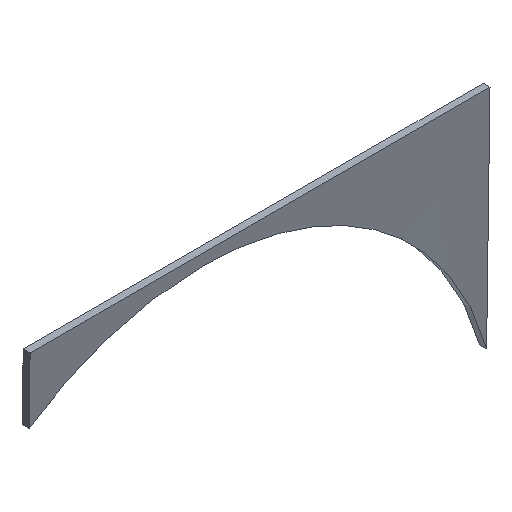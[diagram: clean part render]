
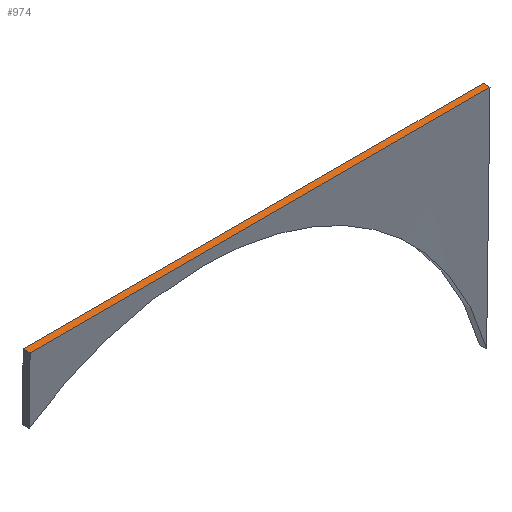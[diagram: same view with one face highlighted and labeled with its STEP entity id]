
A CAD part, isometric view. The second image highlights one B-rep face of the part: STEP entity #974.
In plain terms, the highlighted planar face has unit normal (0, 0, 1).
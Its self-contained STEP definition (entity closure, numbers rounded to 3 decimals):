
#59 = B_SPLINE_SURFACE_WITH_KNOTS('',8,3,(
    (#60,#61,#62,#63)
    ,(#64,#65,#66,#67)
    ,(#68,#69,#70,#71)
    ,(#72,#73,#74,#75)
    ,(#76,#77,#78,#79)
    ,(#80,#81,#82,#83)
    ,(#84,#85,#86,#87)
    ,(#88,#89,#90,#91)
    ,(#92,#93,#94,#95
    )),.UNSPECIFIED.,.F.,.F.,.F.,(9,9),(4,4),(4.,5.),(0.,1.),
  .PIECEWISE_BEZIER_KNOTS.);
#60 = CARTESIAN_POINT('',(329.,188.,100.));
#61 = CARTESIAN_POINT('',(333.035,186.258,
    217.091));
#62 = CARTESIAN_POINT('',(326.755,185.546,336.546
    ));
#63 = CARTESIAN_POINT('',(305.,176.,450.));
#64 = CARTESIAN_POINT('',(292.75,188.,100.));
#65 = CARTESIAN_POINT('',(293.885,186.258,
    217.091));
#66 = CARTESIAN_POINT('',(290.565,185.546,336.546
    ));
#67 = CARTESIAN_POINT('',(276.5,176.,450.));
#68 = CARTESIAN_POINT('',(256.5,188.,100.));
#69 = CARTESIAN_POINT('',(254.736,186.258,
    217.091));
#70 = CARTESIAN_POINT('',(254.375,185.546,336.546
    ));
#71 = CARTESIAN_POINT('',(248.,176.,450.));
#72 = CARTESIAN_POINT('',(220.25,188.,100.));
#73 = CARTESIAN_POINT('',(215.586,186.258,
    217.091));
#74 = CARTESIAN_POINT('',(218.185,185.546,336.546)
  );
#75 = CARTESIAN_POINT('',(219.5,176.,450.));
#76 = CARTESIAN_POINT('',(184.,188.,100.));
#77 = CARTESIAN_POINT('',(176.437,186.258,
    217.091));
#78 = CARTESIAN_POINT('',(181.994,185.546,336.546
    ));
#79 = CARTESIAN_POINT('',(191.,176.,450.));
#80 = CARTESIAN_POINT('',(147.75,188.,100.));
#81 = CARTESIAN_POINT('',(137.287,186.258,
    217.091));
#82 = CARTESIAN_POINT('',(145.804,185.546,336.546
    ));
#83 = CARTESIAN_POINT('',(162.5,176.,450.));
#84 = CARTESIAN_POINT('',(111.5,188.,100.));
#85 = CARTESIAN_POINT('',(98.138,186.258,
    217.091));
#86 = CARTESIAN_POINT('',(109.614,185.546,336.546
    ));
#87 = CARTESIAN_POINT('',(134.,176.,450.));
#88 = CARTESIAN_POINT('',(75.25,188.,100.));
#89 = CARTESIAN_POINT('',(58.988,186.258,
    217.091));
#90 = CARTESIAN_POINT('',(73.424,185.546,336.546
    ));
#91 = CARTESIAN_POINT('',(105.5,176.,450.));
#92 = CARTESIAN_POINT('',(39.,188.,100.));
#93 = CARTESIAN_POINT('',(19.839,186.258,
    217.091));
#94 = CARTESIAN_POINT('',(37.234,185.546,336.546)
  );
#95 = CARTESIAN_POINT('',(77.,176.,450.));
#170 = VERTEX_POINT('',#171);
#171 = CARTESIAN_POINT('',(110.,185.9,235.));
#215 = PLANE('',#216);
#216 = AXIS2_PLACEMENT_3D('',#217,#218,#219);
#217 = CARTESIAN_POINT('',(110.,-250.,0.));
#218 = DIRECTION('',(1.,0.,-0.));
#219 = DIRECTION('',(0.,0.,1.));
#242 = EDGE_CURVE('',#170,#243,#245,.T.);
#243 = VERTEX_POINT('',#244);
#244 = CARTESIAN_POINT('',(310.,185.9,235.));
#245 = SURFACE_CURVE('',#246,(#252,#261),.PCURVE_S1.);
#246 = B_SPLINE_CURVE_WITH_KNOTS('',4,(#247,#248,#249,#250,#251),
  .UNSPECIFIED.,.F.,.F.,(5,5),(0.,1.),.PIECEWISE_BEZIER_KNOTS.);
#247 = CARTESIAN_POINT('',(110.,185.9,235.));
#248 = CARTESIAN_POINT('',(162.5,185.9,235.));
#249 = CARTESIAN_POINT('',(215.,185.9,235.));
#250 = CARTESIAN_POINT('',(267.5,185.9,235.));
#251 = CARTESIAN_POINT('',(320.,185.9,235.));
#252 = PCURVE('',#59,#253);
#253 = DEFINITIONAL_REPRESENTATION('',(#254),#260);
#254 = B_SPLINE_CURVE_WITH_KNOTS('',4,(#255,#256,#257,#258,#259),
  .UNSPECIFIED.,.F.,.F.,(5,5),(0.,1.),.PIECEWISE_BEZIER_KNOTS.);
#255 = CARTESIAN_POINT('',(4.738,0.383));
#256 = CARTESIAN_POINT('',(4.561,0.383));
#257 = CARTESIAN_POINT('',(4.384,0.383));
#258 = CARTESIAN_POINT('',(4.207,0.383));
#259 = CARTESIAN_POINT('',(4.03,0.383));
#260 = ( GEOMETRIC_REPRESENTATION_CONTEXT(2) 
PARAMETRIC_REPRESENTATION_CONTEXT() REPRESENTATION_CONTEXT('2D SPACE',''
  ) );
#261 = PCURVE('',#262,#267);
#262 = PLANE('',#263);
#263 = AXIS2_PLACEMENT_3D('',#264,#265,#266);
#264 = CARTESIAN_POINT('',(110.,-250.,235.));
#265 = DIRECTION('',(0.,0.,1.));
#266 = DIRECTION('',(1.,0.,-0.));
#267 = DEFINITIONAL_REPRESENTATION('',(#268),#274);
#268 = B_SPLINE_CURVE_WITH_KNOTS('',4,(#269,#270,#271,#272,#273),
  .UNSPECIFIED.,.F.,.F.,(5,5),(0.,1.),.PIECEWISE_BEZIER_KNOTS.);
#269 = CARTESIAN_POINT('',(0.,435.9));
#270 = CARTESIAN_POINT('',(52.5,435.9));
#271 = CARTESIAN_POINT('',(105.,435.9));
#272 = CARTESIAN_POINT('',(157.5,435.9));
#273 = CARTESIAN_POINT('',(210.,435.9));
#274 = ( GEOMETRIC_REPRESENTATION_CONTEXT(2) 
PARAMETRIC_REPRESENTATION_CONTEXT() REPRESENTATION_CONTEXT('2D SPACE',''
  ) );
#370 = PLANE('',#371);
#371 = AXIS2_PLACEMENT_3D('',#372,#373,#374);
#372 = CARTESIAN_POINT('',(310.,-250.,0.));
#373 = DIRECTION('',(1.,0.,-0.));
#374 = DIRECTION('',(0.,0.,1.));
#589 = B_SPLINE_SURFACE_WITH_KNOTS('',8,3,(
    (#590,#591,#592,#593)
    ,(#594,#595,#596,#597)
    ,(#598,#599,#600,#601)
    ,(#602,#603,#604,#605)
    ,(#606,#607,#608,#609)
    ,(#610,#611,#612,#613)
    ,(#614,#615,#616,#617)
    ,(#618,#619,#620,#621)
    ,(#622,#623,#624,#625
    )),.UNSPECIFIED.,.F.,.F.,.F.,(9,9),(4,4),(4.,5.),(0.,1.),
  .PIECEWISE_BEZIER_KNOTS.);
#590 = CARTESIAN_POINT('',(329.,185.,97.));
#591 = CARTESIAN_POINT('',(332.161,182.923,
    213.778));
#592 = CARTESIAN_POINT('',(328.615,183.321,
    334.206));
#593 = CARTESIAN_POINT('',(305.,173.,447.));
#594 = CARTESIAN_POINT('',(292.75,185.,97.));
#595 = CARTESIAN_POINT('',(293.343,182.923,
    213.778));
#596 = CARTESIAN_POINT('',(291.752,183.321,
    334.206));
#597 = CARTESIAN_POINT('',(276.5,173.,447.));
#598 = CARTESIAN_POINT('',(256.5,185.,97.));
#599 = CARTESIAN_POINT('',(254.525,182.923,
    213.778));
#600 = CARTESIAN_POINT('',(254.889,183.321,
    334.206));
#601 = CARTESIAN_POINT('',(248.,173.,447.));
#602 = CARTESIAN_POINT('',(220.25,185.,97.));
#603 = CARTESIAN_POINT('',(215.707,182.923,
    213.778));
#604 = CARTESIAN_POINT('',(218.027,183.321,
    334.206));
#605 = CARTESIAN_POINT('',(219.5,173.,447.));
#606 = CARTESIAN_POINT('',(184.,185.,97.));
#607 = CARTESIAN_POINT('',(176.889,182.923,
    213.778));
#608 = CARTESIAN_POINT('',(181.164,183.321,
    334.206));
#609 = CARTESIAN_POINT('',(191.,173.,447.));
#610 = CARTESIAN_POINT('',(147.75,185.,97.));
#611 = CARTESIAN_POINT('',(138.071,182.923,
    213.778));
#612 = CARTESIAN_POINT('',(144.302,183.321,
    334.206));
#613 = CARTESIAN_POINT('',(162.5,173.,447.));
#614 = CARTESIAN_POINT('',(111.5,185.,97.));
#615 = CARTESIAN_POINT('',(99.253,182.923,
    213.778));
#616 = CARTESIAN_POINT('',(107.439,183.321,
    334.206));
#617 = CARTESIAN_POINT('',(134.,173.,447.));
#618 = CARTESIAN_POINT('',(75.25,185.,97.));
#619 = CARTESIAN_POINT('',(60.435,182.923,
    213.778));
#620 = CARTESIAN_POINT('',(70.576,183.321,
    334.206));
#621 = CARTESIAN_POINT('',(105.5,173.,447.));
#622 = CARTESIAN_POINT('',(39.,185.,97.));
#623 = CARTESIAN_POINT('',(21.617,182.923,213.778
    ));
#624 = CARTESIAN_POINT('',(33.714,183.321,
    334.206));
#625 = CARTESIAN_POINT('',(77.,173.,447.));
#827 = EDGE_CURVE('',#243,#828,#830,.T.);
#828 = VERTEX_POINT('',#829);
#829 = CARTESIAN_POINT('',(310.,182.91,235.));
#830 = SURFACE_CURVE('',#831,(#835,#842),.PCURVE_S1.);
#831 = LINE('',#832,#833);
#832 = CARTESIAN_POINT('',(310.,-250.,235.));
#833 = VECTOR('',#834,1.);
#834 = DIRECTION('',(0.,-1.,0.));
#835 = PCURVE('',#370,#836);
#836 = DEFINITIONAL_REPRESENTATION('',(#837),#841);
#837 = LINE('',#838,#839);
#838 = CARTESIAN_POINT('',(235.,0.));
#839 = VECTOR('',#840,1.);
#840 = DIRECTION('',(0.,1.));
#841 = ( GEOMETRIC_REPRESENTATION_CONTEXT(2) 
PARAMETRIC_REPRESENTATION_CONTEXT() REPRESENTATION_CONTEXT('2D SPACE',''
  ) );
#842 = PCURVE('',#262,#843);
#843 = DEFINITIONAL_REPRESENTATION('',(#844),#848);
#844 = LINE('',#845,#846);
#845 = CARTESIAN_POINT('',(200.,0.));
#846 = VECTOR('',#847,1.);
#847 = DIRECTION('',(0.,-1.));
#848 = ( GEOMETRIC_REPRESENTATION_CONTEXT(2) 
PARAMETRIC_REPRESENTATION_CONTEXT() REPRESENTATION_CONTEXT('2D SPACE',''
  ) );
#974 = ADVANCED_FACE('',(#975),#262,.T.);
#975 = FACE_BOUND('',#976,.T.);
#976 = EDGE_LOOP('',(#977,#1000,#1027,#1028));
#977 = ORIENTED_EDGE('',*,*,#978,.F.);
#978 = EDGE_CURVE('',#979,#170,#981,.T.);
#979 = VERTEX_POINT('',#980);
#980 = CARTESIAN_POINT('',(110.,182.91,235.));
#981 = SURFACE_CURVE('',#982,(#986,#993),.PCURVE_S1.);
#982 = LINE('',#983,#984);
#983 = CARTESIAN_POINT('',(110.,-250.,235.));
#984 = VECTOR('',#985,1.);
#985 = DIRECTION('',(-0.,1.,0.));
#986 = PCURVE('',#262,#987);
#987 = DEFINITIONAL_REPRESENTATION('',(#988),#992);
#988 = LINE('',#989,#990);
#989 = CARTESIAN_POINT('',(0.,0.));
#990 = VECTOR('',#991,1.);
#991 = DIRECTION('',(0.,1.));
#992 = ( GEOMETRIC_REPRESENTATION_CONTEXT(2) 
PARAMETRIC_REPRESENTATION_CONTEXT() REPRESENTATION_CONTEXT('2D SPACE',''
  ) );
#993 = PCURVE('',#215,#994);
#994 = DEFINITIONAL_REPRESENTATION('',(#995),#999);
#995 = LINE('',#996,#997);
#996 = CARTESIAN_POINT('',(235.,0.));
#997 = VECTOR('',#998,1.);
#998 = DIRECTION('',(0.,-1.));
#999 = ( GEOMETRIC_REPRESENTATION_CONTEXT(2) 
PARAMETRIC_REPRESENTATION_CONTEXT() REPRESENTATION_CONTEXT('2D SPACE',''
  ) );
#1000 = ORIENTED_EDGE('',*,*,#1001,.T.);
#1001 = EDGE_CURVE('',#979,#828,#1002,.T.);
#1002 = SURFACE_CURVE('',#1003,(#1009,#1018),.PCURVE_S1.);
#1003 = B_SPLINE_CURVE_WITH_KNOTS('',4,(#1004,#1005,#1006,#1007,#1008),
  .UNSPECIFIED.,.F.,.F.,(5,5),(0.,1.),.PIECEWISE_BEZIER_KNOTS.);
#1004 = CARTESIAN_POINT('',(110.,182.91,235.));
#1005 = CARTESIAN_POINT('',(162.5,182.91,235.));
#1006 = CARTESIAN_POINT('',(215.,182.91,235.));
#1007 = CARTESIAN_POINT('',(267.5,182.91,235.));
#1008 = CARTESIAN_POINT('',(320.,182.91,235.));
#1009 = PCURVE('',#262,#1010);
#1010 = DEFINITIONAL_REPRESENTATION('',(#1011),#1017);
#1011 = B_SPLINE_CURVE_WITH_KNOTS('',4,(#1012,#1013,#1014,#1015,#1016),
  .UNSPECIFIED.,.F.,.F.,(5,5),(0.,1.),.PIECEWISE_BEZIER_KNOTS.);
#1012 = CARTESIAN_POINT('',(0.,432.91));
#1013 = CARTESIAN_POINT('',(52.5,432.91));
#1014 = CARTESIAN_POINT('',(105.,432.91));
#1015 = CARTESIAN_POINT('',(157.5,432.91));
#1016 = CARTESIAN_POINT('',(210.,432.91));
#1017 = ( GEOMETRIC_REPRESENTATION_CONTEXT(2) 
PARAMETRIC_REPRESENTATION_CONTEXT() REPRESENTATION_CONTEXT('2D SPACE',''
  ) );
#1018 = PCURVE('',#589,#1019);
#1019 = DEFINITIONAL_REPRESENTATION('',(#1020),#1026);
#1020 = B_SPLINE_CURVE_WITH_KNOTS('',4,(#1021,#1022,#1023,#1024,#1025),
  .UNSPECIFIED.,.F.,.F.,(5,5),(0.,1.),.PIECEWISE_BEZIER_KNOTS.);
#1021 = CARTESIAN_POINT('',(4.738,0.391));
#1022 = CARTESIAN_POINT('',(4.561,0.391));
#1023 = CARTESIAN_POINT('',(4.384,0.391));
#1024 = CARTESIAN_POINT('',(4.207,0.391));
#1025 = CARTESIAN_POINT('',(4.03,0.391));
#1026 = ( GEOMETRIC_REPRESENTATION_CONTEXT(2) 
PARAMETRIC_REPRESENTATION_CONTEXT() REPRESENTATION_CONTEXT('2D SPACE',''
  ) );
#1027 = ORIENTED_EDGE('',*,*,#827,.F.);
#1028 = ORIENTED_EDGE('',*,*,#242,.F.);
